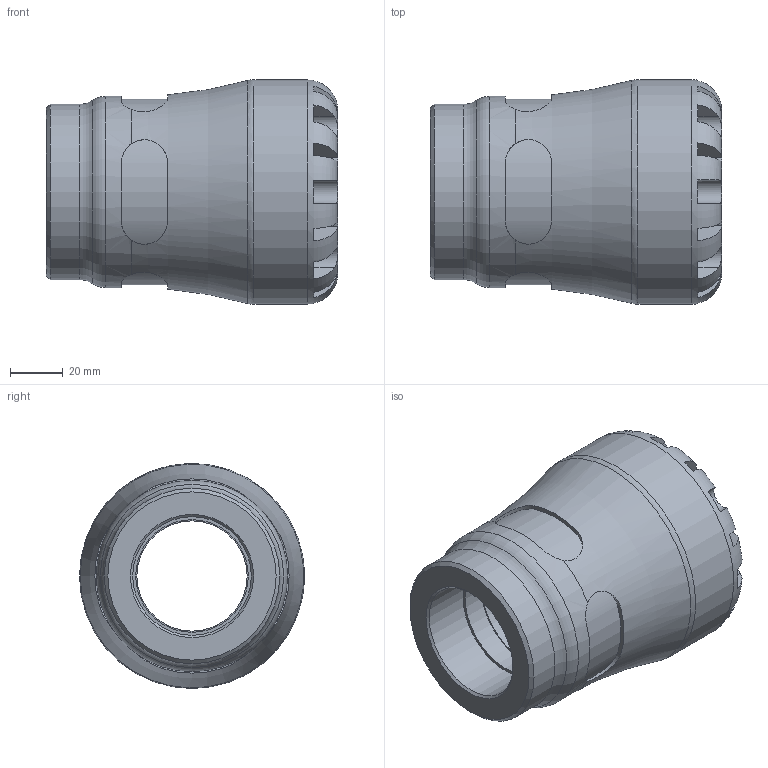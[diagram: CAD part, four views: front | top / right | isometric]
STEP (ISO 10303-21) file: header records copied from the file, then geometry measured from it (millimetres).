
FILE_DESCRIPTION(/* description */ ('PLASSON FEMALE ADAPTOR 50x1 1/2" SERIES 1'),/* implementation_level */ '2;1');
FILE_NAME(/* name */ 'C:\Dropbox\KIMPROJECTS-Inventor\99-16-3568-Processing\S1\27.01.19\1003G\1003G0050015_1903G0050015.ipt.stp',/* time_stamp */ '2019-01-27T09:13:20+02:00',/* author */ ('KIM'),/* organization */ (''),/* preprocessor_version */ 'ST-DEVELOPER v15.6',/* originating_system */ 'Autodesk Inventor 2015',/* authorisation */ '');
FILE_SCHEMA (('AUTOMOTIVE_DESIGN { 1 0 10303 214 3 1 1 }'));
Length unit declared in the file: millimetre
Products named in the file (1): 1003G0050015_1903G0050015
Bounding box: 110 x 85 x 85 mm (x, y, z)
Volume: 295917.3 mm3; surface area: 51143 mm2
Topology: 1 solids, 1 shells, 104 faces, 265 edges, 166 vertices
Faces by surface type: plane 61, cylinder 35, torus 5, cone 3
Full cylindrical faces by diameter (mm): 41.667 x1, 42.603 x1, 44.845 x1, 50 x1, 66.3 x1, 72.25 x1, 85 x1
Entity records: 3856 total; most frequent: CARTESIAN_POINT 1469, ORIENTED_EDGE 492, DIRECTION 478, EDGE_CURVE 246, AXIS2_PLACEMENT_3D 199, VERTEX_POINT 162, EDGE_LOOP 124, FACE_OUTER_BOUND 104
